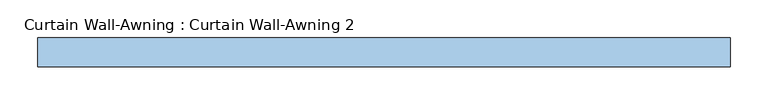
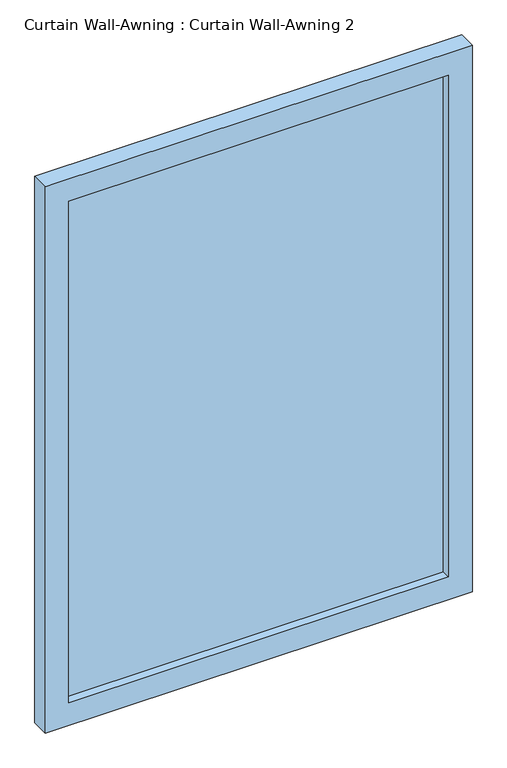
"""IFC4 building model written with IfcOpenShell, lengths in millimetres: window geometry, Curtain Wall-Awning : Curtain Wall-Awning 2."""

from ifc_helpers import new_model, si_unit, frame, origin, place, context, project, spatial, polyline, outline, extrude, source, transform, mapped, element, save


def curtain_wall_awning_curtain_wall_awning_2_2622fc88(model_context):
    return source(origin(), model_context, "Body", "SweptSolid", [
        extrude(outline(polyline([(406.4, -19.05), (-406.4, -19.05), (-406.4, -6.35), (406.4, -6.35), (406.4, -19.05)])), frame((0.0, 0.0, 50.8), z_axis=(0.0, 0.0, 1.0), x_axis=(1.0, 0.0, 0.0)), (0.0, 0.0, 1.0), 1134.635445),
        extrude(outline(polyline([(1236.235445, -457.2), (0.0, -457.2), (0.0, 457.2), (1236.235445, 457.2), (1236.235445, -457.2)]), holes=[polyline([(1185.435445, -406.4), (1185.435445, 406.4), (50.8, 406.4), (50.8, -406.4), (1185.435445, -406.4)])]), frame((0.0, -38.1, 0.0), z_axis=(0.0, 1.0, 0.0), x_axis=(0.0, 0.0, 1.0)), (0.0, 0.0, 1.0), 38.1),
    ])


if __name__ == "__main__":
    model = new_model("IFC4")
    model_context = context("Model", 3, world=origin())
    ifc_project = project(units=[si_unit("LENGTHUNIT", "METRE", prefix="MILLI")], contexts=[model_context])
    site = spatial("IfcSite", under=ifc_project)
    building = spatial("IfcBuilding", under=site)
    placement = place(None, origin())
    curtain_wall_awning_curtain_wall_awning_2_shape = curtain_wall_awning_curtain_wall_awning_2_2622fc88(model_context)
    element("IfcWindow", 1, ObjectType="Curtain Wall-Awning : Curtain Wall-Awning 2", at=placement, inside=building, context=model_context, shape_type="MappedRepresentation", body=[
        mapped(curtain_wall_awning_curtain_wall_awning_2_shape, transform((0.0, 0.0, 0.0), x_axis=(1.0, 0.0, 0.0), y_axis=(0.0, 1.0, 0.0), z_axis=(0.0, 0.0, 1.0))),
    ])
    save(model, "model.ifc")
